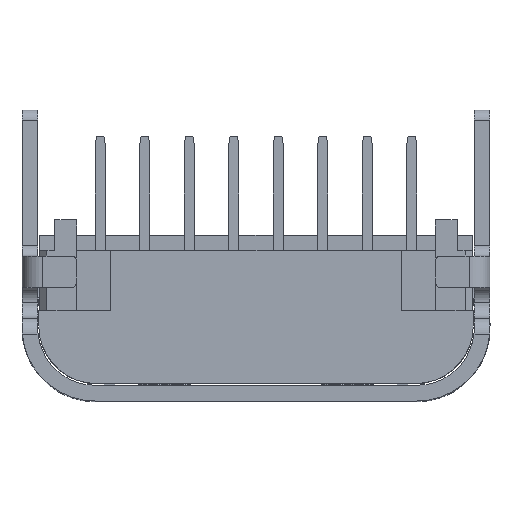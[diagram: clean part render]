
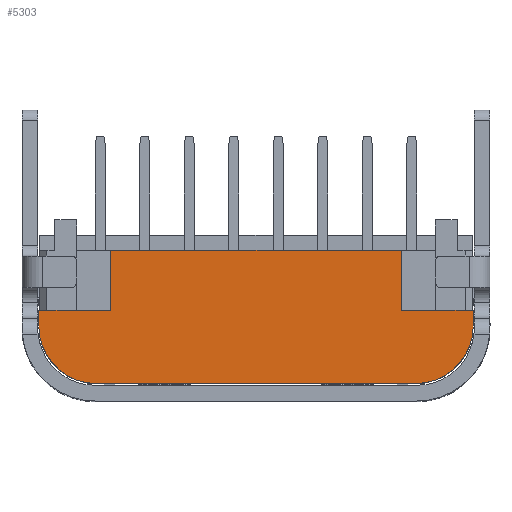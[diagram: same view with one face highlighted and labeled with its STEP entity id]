
A CAD part, top view. The second image highlights one B-rep face of the part: STEP entity #5303.
In plain terms, the highlighted planar face has unit normal (0, 0, 1) as drawn and (0, 0, -1) by its records, which use the part's own axes.
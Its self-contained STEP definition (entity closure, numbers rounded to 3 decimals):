
#74 = DIRECTION ( 'NONE',  ( 1., 0., 0. ) ) ;
#260 = EDGE_CURVE ( 'NONE', #5700, #26386, #37391, .T. ) ;
#817 = CARTESIAN_POINT ( 'NONE',  ( 4.15, 0., -8.7 ) ) ;
#1354 = VERTEX_POINT ( 'NONE', #34993 ) ;
#1378 = ORIENTED_EDGE ( 'NONE', *, *, #20107, .T. ) ;
#1699 = ORIENTED_EDGE ( 'NONE', *, *, #21921, .T. ) ;
#2924 = CIRCLE ( 'NONE', #23644, 1.1 ) ;
#3060 = DIRECTION ( 'NONE',  ( 0., -1., 0. ) ) ;
#4619 = LINE ( 'NONE', #24951, #13100 ) ;
#5054 = EDGE_CURVE ( 'NONE', #11421, #15486, #29225, .T. ) ;
#5303 = ADVANCED_FACE ( 'NONE', ( #14879 ), #18130, .F. ) ;
#5487 = VECTOR ( 'NONE', #33951, 1000. ) ;
#5499 = CARTESIAN_POINT ( 'NONE',  ( 2.775, 0., -8.7 ) ) ;
#5700 = VERTEX_POINT ( 'NONE', #25833 ) ;
#6580 = CARTESIAN_POINT ( 'NONE',  ( -4.15, -0.15, -8.7 ) ) ;
#7499 = ORIENTED_EDGE ( 'NONE', *, *, #27060, .F. ) ;
#8139 = EDGE_CURVE ( 'NONE', #37493, #5700, #30198, .T. ) ;
#9531 = ORIENTED_EDGE ( 'NONE', *, *, #260, .T. ) ;
#10378 = EDGE_CURVE ( 'NONE', #12464, #39047, #2924, .T. ) ;
#11421 = VERTEX_POINT ( 'NONE', #16510 ) ;
#12062 = VECTOR ( 'NONE', #17927, 1000. ) ;
#12464 = VERTEX_POINT ( 'NONE', #37871 ) ;
#13100 = VECTOR ( 'NONE', #28404, 1000. ) ;
#13144 = AXIS2_PLACEMENT_3D ( 'NONE', #16800, #23494, #42726 ) ;
#13763 = EDGE_CURVE ( 'NONE', #11421, #14669, #30763, .T. ) ;
#14475 = CARTESIAN_POINT ( 'NONE',  ( 0., -0.15, -8.7 ) ) ;
#14669 = VERTEX_POINT ( 'NONE', #6580 ) ;
#14836 = AXIS2_PLACEMENT_3D ( 'NONE', #30279, #33110, #29867 ) ;
#14879 = FACE_OUTER_BOUND ( 'NONE', #31777, .T. ) ;
#15459 = DIRECTION ( 'NONE',  ( 0., 1., 0. ) ) ;
#15486 = VERTEX_POINT ( 'NONE', #30474 ) ;
#16510 = CARTESIAN_POINT ( 'NONE',  ( -2.775, -0.15, -8.7 ) ) ;
#16800 = CARTESIAN_POINT ( 'NONE',  ( 3.05, 0.145, -8.7 ) ) ;
#17386 = VECTOR ( 'NONE', #3060, 1000. ) ;
#17927 = DIRECTION ( 'NONE',  ( -1., 0., 0. ) ) ;
#18002 = VECTOR ( 'NONE', #36703, 1000. ) ;
#18130 = PLANE ( 'NONE',  #14836 ) ;
#18417 = ORIENTED_EDGE ( 'NONE', *, *, #36860, .T. ) ;
#18744 = ORIENTED_EDGE ( 'NONE', *, *, #8139, .T. ) ;
#20107 = EDGE_CURVE ( 'NONE', #14669, #12464, #4619, .T. ) ;
#20548 = CARTESIAN_POINT ( 'NONE',  ( 0., -1.3, -8.7 ) ) ;
#21400 = LINE ( 'NONE', #21830, #25631 ) ;
#21830 = CARTESIAN_POINT ( 'NONE',  ( 0., 1.245, -8.7 ) ) ;
#21921 = EDGE_CURVE ( 'NONE', #39047, #1354, #21400, .T. ) ;
#23196 = CARTESIAN_POINT ( 'NONE',  ( -3.05, 0.145, -8.7 ) ) ;
#23309 = CARTESIAN_POINT ( 'NONE',  ( 2.775, -0.15, -8.7 ) ) ;
#23494 = DIRECTION ( 'NONE',  ( 0., 0., -1. ) ) ;
#23512 = ORIENTED_EDGE ( 'NONE', *, *, #13763, .T. ) ;
#23644 = AXIS2_PLACEMENT_3D ( 'NONE', #23196, #29897, #74 ) ;
#24297 = CARTESIAN_POINT ( 'NONE',  ( 0., -0.15, -8.7 ) ) ;
#24951 = CARTESIAN_POINT ( 'NONE',  ( -4.15, 0., -8.7 ) ) ;
#25631 = VECTOR ( 'NONE', #37605, 1000. ) ;
#25833 = CARTESIAN_POINT ( 'NONE',  ( 4.15, -0.15, -8.7 ) ) ;
#25980 = ORIENTED_EDGE ( 'NONE', *, *, #10378, .T. ) ;
#26386 = VERTEX_POINT ( 'NONE', #23309 ) ;
#26420 = VECTOR ( 'NONE', #15459, 1000. ) ;
#27060 = EDGE_CURVE ( 'NONE', #34510, #26386, #35534, .T. ) ;
#27676 = LINE ( 'NONE', #20548, #5487 ) ;
#28404 = DIRECTION ( 'NONE',  ( 0., 1., 0. ) ) ;
#29225 = LINE ( 'NONE', #32683, #17386 ) ;
#29450 = ORIENTED_EDGE ( 'NONE', *, *, #38514, .T. ) ;
#29867 = DIRECTION ( 'NONE',  ( 1., 0., 0. ) ) ;
#29897 = DIRECTION ( 'NONE',  ( 0., 0., -1. ) ) ;
#30198 = LINE ( 'NONE', #817, #18002 ) ;
#30279 = CARTESIAN_POINT ( 'NONE',  ( 5.412, 1.996, -8.7 ) ) ;
#30474 = CARTESIAN_POINT ( 'NONE',  ( -2.775, -1.3, -8.7 ) ) ;
#30763 = LINE ( 'NONE', #24297, #30856 ) ;
#30856 = VECTOR ( 'NONE', #37476, 1000. ) ;
#31777 = EDGE_LOOP ( 'NONE', ( #39574, #23512, #1378, #25980, #1699, #29450, #18744, #9531, #7499, #18417 ) ) ;
#31788 = CIRCLE ( 'NONE', #13144, 1.1 ) ;
#32683 = CARTESIAN_POINT ( 'NONE',  ( -2.775, 0., -8.7 ) ) ;
#32780 = CARTESIAN_POINT ( 'NONE',  ( 2.775, -1.3, -8.7 ) ) ;
#32937 = CARTESIAN_POINT ( 'NONE',  ( 4.15, 0.145, -8.7 ) ) ;
#33110 = DIRECTION ( 'NONE',  ( 0., 0., 1. ) ) ;
#33951 = DIRECTION ( 'NONE',  ( -1., 0., 0. ) ) ;
#34510 = VERTEX_POINT ( 'NONE', #32780 ) ;
#34810 = CARTESIAN_POINT ( 'NONE',  ( -3.05, 1.245, -8.7 ) ) ;
#34993 = CARTESIAN_POINT ( 'NONE',  ( 3.05, 1.245, -8.7 ) ) ;
#35534 = LINE ( 'NONE', #5499, #26420 ) ;
#36703 = DIRECTION ( 'NONE',  ( 0., -1., 0. ) ) ;
#36860 = EDGE_CURVE ( 'NONE', #34510, #15486, #27676, .T. ) ;
#37391 = LINE ( 'NONE', #14475, #12062 ) ;
#37476 = DIRECTION ( 'NONE',  ( -1., 0., 0. ) ) ;
#37493 = VERTEX_POINT ( 'NONE', #32937 ) ;
#37605 = DIRECTION ( 'NONE',  ( 1., 0., 0. ) ) ;
#37871 = CARTESIAN_POINT ( 'NONE',  ( -4.15, 0.145, -8.7 ) ) ;
#38514 = EDGE_CURVE ( 'NONE', #1354, #37493, #31788, .T. ) ;
#39047 = VERTEX_POINT ( 'NONE', #34810 ) ;
#39574 = ORIENTED_EDGE ( 'NONE', *, *, #5054, .F. ) ;
#42726 = DIRECTION ( 'NONE',  ( 1., 0., 0. ) ) ;
